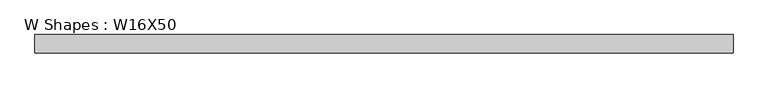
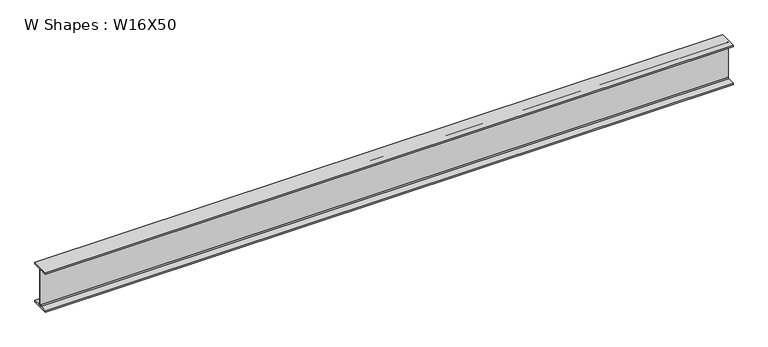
"""IFC4 building model written with IfcOpenShell, lengths in millimetres: beam geometry, W Shapes : W16X50."""

from ifc_helpers import new_model, si_unit, point, frame, frame_2d, origin, place, context, project, spatial, polyline, circle_curve, trimmed, segment, composite_curve, outline, extrude, source, transform, mapped, element, save


def w_shapes_w16x50_7702e007(model_context):
    return source(origin(), model_context, "Body", "SweptSolid", [
        extrude(outline(composite_curve([segment(polyline([(89.789, -191.008), (89.789, -207.01), (-89.789, -207.01), (-89.789, -191.008), (-14.986, -191.008)]), True, "CONTINUOUS"), segment(trimmed(circle_curve(frame_2d((-14.986, -180.848)), 10.16), [point((-14.986, -191.008))], [point((-4.826, -180.848))], True, "CARTESIAN"), True, "CONTINUOUS"), segment(polyline([(-4.826, -180.848), (-4.826, 180.848)]), True, "CONTINUOUS"), segment(trimmed(circle_curve(frame_2d((-14.986, 180.848)), 10.16), [point((-4.826, 180.848))], [point((-14.986, 191.008))], True, "CARTESIAN"), True, "CONTINUOUS"), segment(polyline([(-14.986, 191.008), (-89.789, 191.008), (-89.789, 207.01), (89.789, 207.01), (89.789, 191.008), (14.986, 191.008)]), True, "CONTINUOUS"), segment(trimmed(circle_curve(frame_2d((14.986, 180.848)), 10.16), [point((14.986, 191.008))], [point((4.826, 180.848))], True, "CARTESIAN"), True, "CONTINUOUS"), segment(polyline([(4.826, 180.848), (4.826, -180.848)]), True, "CONTINUOUS"), segment(trimmed(circle_curve(frame_2d((14.986, -180.848)), 10.16), [point((4.826, -180.848))], [point((14.986, -191.008))], True, "CARTESIAN"), True, "CONTINUOUS"), segment(polyline([(14.986, -191.008), (89.789, -191.008)]), True, "CONTINUOUS")], self_intersect=False)), frame((-3403.4371522, 0.0, 0.0), z_axis=(1.0, 0.0, 0.0), x_axis=(0.0, 1.0, 0.0)), (0.0, 0.0, 1.0), 6813.5123501),
    ])


if __name__ == "__main__":
    model = new_model("IFC4")
    model_context = context("Model", 3, world=origin())
    ifc_project = project(units=[si_unit("LENGTHUNIT", "METRE", prefix="MILLI")], contexts=[model_context])
    site = spatial("IfcSite", under=ifc_project)
    building = spatial("IfcBuilding", under=site)
    placement = place(None, origin())
    w_shapes_w16x50_shape = w_shapes_w16x50_7702e007(model_context)
    element("IfcBeam", 1, ObjectType="W Shapes : W16X50", at=placement, inside=building, context=model_context, shape_type="MappedRepresentation", body=[
        mapped(w_shapes_w16x50_shape, transform((0.0, 0.0, 0.0), x_axis=(1.0, 0.0, 0.0), y_axis=(0.0, 1.0, 0.0), z_axis=(0.0, 0.0, 1.0))),
    ])
    save(model, "model.ifc")
